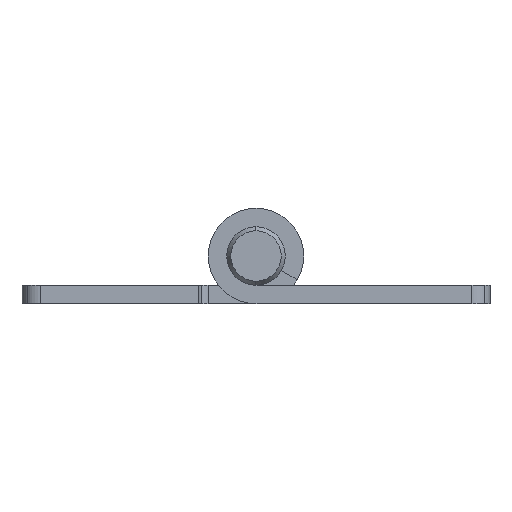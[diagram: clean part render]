
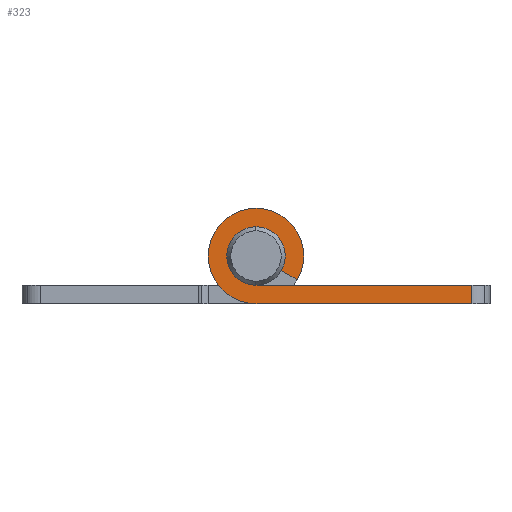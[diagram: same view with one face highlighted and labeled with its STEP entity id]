
A CAD part, front view. The second image highlights one B-rep face of the part: STEP entity #323.
In plain terms, the highlighted planar face has unit normal (0, -1, 0).
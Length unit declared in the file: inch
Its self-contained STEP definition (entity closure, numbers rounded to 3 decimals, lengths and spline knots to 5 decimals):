
#323=ADVANCED_FACE('',(#654),#655,.F.);
#654=FACE_OUTER_BOUND('',#1005,.T.);
#655=PLANE('',#1006);
#1005=EDGE_LOOP('',(#1854,#1855,#1856,#1857,#1858,#1859,#1860,#1861));
#1006=AXIS2_PLACEMENT_3D('',#1862,#1863,#1864);
#1854=ORIENTED_EDGE('',*,*,#2375,.F.);
#1855=ORIENTED_EDGE('',*,*,#2349,.F.);
#1856=ORIENTED_EDGE('',*,*,#2316,.F.);
#1857=ORIENTED_EDGE('',*,*,#2379,.F.);
#1858=ORIENTED_EDGE('',*,*,#2389,.F.);
#1859=ORIENTED_EDGE('',*,*,#2062,.F.);
#1860=ORIENTED_EDGE('',*,*,#2273,.F.);
#1861=ORIENTED_EDGE('',*,*,#2113,.F.);
#1862=CARTESIAN_POINT('',(0.13875,0.1875,0.07191));
#1863=DIRECTION('',(0.,1.0,0.));
#1864=DIRECTION('',(0.,0.,-1.0));
#2062=EDGE_CURVE('',#2460,#2462,#2463,.T.);
#2113=EDGE_CURVE('',#2549,#2551,#2552,.T.);
#2273=EDGE_CURVE('',#2551,#2460,#2799,.T.);
#2316=EDGE_CURVE('',#2858,#2861,#2862,.T.);
#2349=EDGE_CURVE('',#2861,#2903,#2904,.T.);
#2375=EDGE_CURVE('',#2903,#2549,#2936,.T.);
#2379=EDGE_CURVE('',#2940,#2858,#2942,.T.);
#2389=EDGE_CURVE('',#2462,#2940,#2952,.T.);
#2460=VERTEX_POINT('',#3034);
#2462=VERTEX_POINT('',#3037);
#2463=CIRCLE('',#3038,0.10187);
#2549=VERTEX_POINT('',#3144);
#2551=VERTEX_POINT('',#3146);
#2552=LINE('',#3147,#3148);
#2799=CIRCLE('',#3461,0.10187);
#2858=VERTEX_POINT('',#3536);
#2861=VERTEX_POINT('',#3540);
#2862=CIRCLE('',#3541,0.0625);
#2903=VERTEX_POINT('',#3597);
#2904=LINE('',#3598,#3599);
#2936=LINE('',#3637,#3638);
#2940=VERTEX_POINT('',#3642);
#2942=CIRCLE('',#3645,0.0625);
#2952=LINE('',#3658,#3659);
#3034=CARTESIAN_POINT('',(0.,0.1875,0.21562));
#3037=CARTESIAN_POINT('',(0.08822,0.1875,0.06281));
#3038=AXIS2_PLACEMENT_3D('',#3734,#3735,#3736);
#3144=CARTESIAN_POINT('',(0.46063,0.1875,0.01188));
#3146=CARTESIAN_POINT('',(0.,0.1875,0.01188));
#3147=CARTESIAN_POINT('',(0.5,0.1875,0.01188));
#3148=VECTOR('',#3817,0.3937);
#3461=AXIS2_PLACEMENT_3D('',#4067,#4068,#4069);
#3536=CARTESIAN_POINT('',(0.,0.1875,0.17625));
#3540=CARTESIAN_POINT('',(0.,0.1875,0.05125));
#3541=AXIS2_PLACEMENT_3D('',#4126,#4127,#4128);
#3597=CARTESIAN_POINT('',(0.46063,0.1875,0.05125));
#3598=CARTESIAN_POINT('',(0.,0.1875,0.05125));
#3599=VECTOR('',#4162,0.3937);
#3637=CARTESIAN_POINT('',(0.46063,0.1875,0.05174));
#3638=VECTOR('',#4196,0.3937);
#3642=CARTESIAN_POINT('',(0.05413,0.1875,0.0825));
#3645=AXIS2_PLACEMENT_3D('',#4201,#4202,#4203);
#3658=CARTESIAN_POINT('',(0.08822,0.1875,0.06281));
#3659=VECTOR('',#4210,0.3937);
#3734=CARTESIAN_POINT('',(0.,0.1875,0.11375));
#3735=DIRECTION('',(0.,1.0,0.));
#3736=DIRECTION('',(0.,0.,-1.0));
#3817=DIRECTION('',(-1.0,0.,0.));
#4067=CARTESIAN_POINT('',(0.,0.1875,0.11375));
#4068=DIRECTION('',(0.,1.0,0.));
#4069=DIRECTION('',(0.,0.,-1.0));
#4126=CARTESIAN_POINT('',(0.,0.1875,0.11375));
#4127=DIRECTION('',(0.,-1.0,0.));
#4128=DIRECTION('',(0.,0.,1.0));
#4162=DIRECTION('',(1.0,0.,0.));
#4196=DIRECTION('',(0.,0.,-1.0));
#4201=CARTESIAN_POINT('',(0.,0.1875,0.11375));
#4202=DIRECTION('',(0.,-1.0,0.));
#4203=DIRECTION('',(0.,0.,1.0));
#4210=DIRECTION('',(-0.866,0.,0.5));
